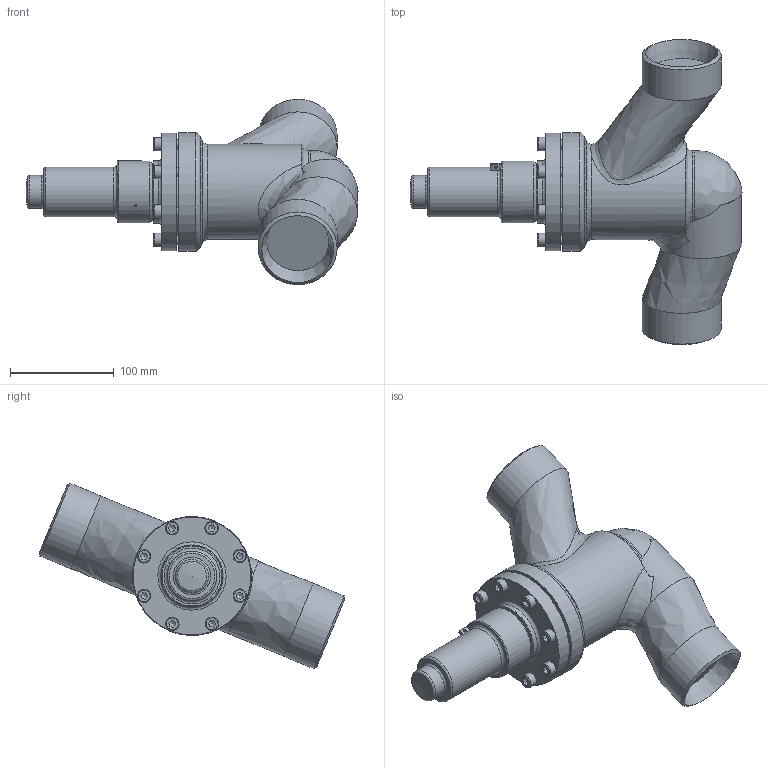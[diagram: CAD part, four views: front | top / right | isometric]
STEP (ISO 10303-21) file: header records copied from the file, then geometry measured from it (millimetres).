
FILE_DESCRIPTION((''),'2;1');
FILE_NAME('Y:\Home\AWP_CAD (2D+3D-Ansicht)\CAD Drawings\3D_STEP\AVR D AE\AVR D AE 26G00-065 PS25.stp','2012-08-27T10:37:20',('Lempe.Ha'),(''),'Autodesk Inventor 2012','Autodesk Inventor 2012','');
FILE_SCHEMA(('AUTOMOTIVE_DESIGN { 1 0 10303 214 1 1 1 1 }'));
Length unit declared in the file: millimetre
Products named in the file (5): 26G00C17A5A30000; 16402.15.3180003; 26300B17.5141004; DIN 912 - ersetzt durch DIN EN ISO 4762 M8 x 25; 16G00B17.5034004
Assembly tree (11 placements, depth 2):
  26G00C17A5A30000
    16402.15.3180003
    26300B17.5141004
    DIN 912 - ersetzt durch DIN EN ISO 4762 M8 x 25  x8
    16G00B17.5034004
Bounding box: 320.7 x 294.72 x 179.24 mm (x, y, z)
Volume: 1637049.8 mm3; surface area: 258074.3 mm2
Topology: 11 solids, 11 shells, 268 faces, 595 edges, 367 vertices
Faces by surface type: plane 105, cylinder 71, cone 45, torus 32, bspline 15
Full cylindrical faces by diameter (mm): 2 x1, 6.647 x8, 8 x8, 9 x8, 13 x8, 20.5 x1, 22 x1, 27 x1, 31 x1, 32 x1, 34 x1, 38 x2, 44 x1, 48 x2, 48.752 x1, 52 x1, 52.5 x2, 59.5 x1, 60 x2, 61.1 x1, 65 x1, 68 x1, 69 x1, 75 x1, 76 x2, 76.1 x2, 80.333 x1, 86 x2, 114 x1, 115 x1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
Entity records: 5025 total; most frequent: CARTESIAN_POINT 1678, DIRECTION 714, ORIENTED_EDGE 480, AXIS2_PLACEMENT_3D 344, EDGE_LOOP 300, EDGE_CURVE 240, VERTEX_POINT 197, CIRCLE 180
